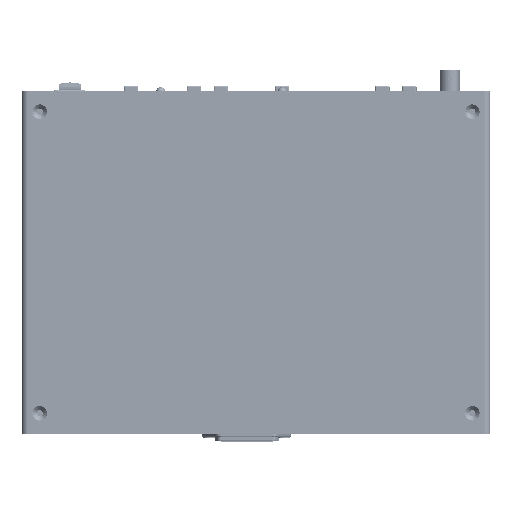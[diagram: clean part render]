
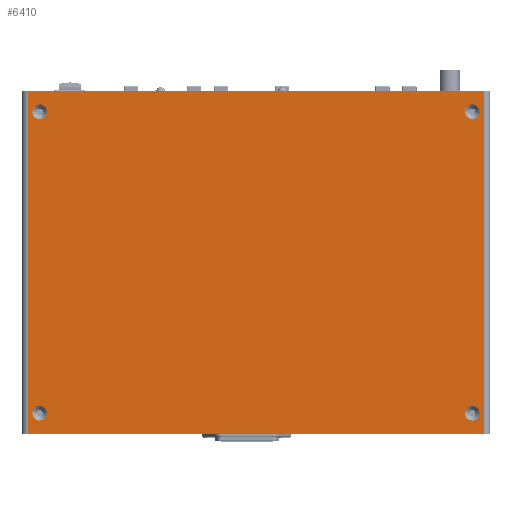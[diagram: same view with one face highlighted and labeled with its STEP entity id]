
A CAD part, front view. The second image highlights one B-rep face of the part: STEP entity #6410.
In plain terms, the highlighted planar face has unit normal (0, -1, 0).
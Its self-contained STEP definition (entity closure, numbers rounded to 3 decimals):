
#6410 = ADVANCED_FACE ( 'NONE', ( #1142898, #49089, #637951, #443942, #838616 ), #851406, .F. ) ;
#28886 = DIRECTION ( 'NONE',  ( 1., 0., 0. ) ) ;
#29588 = CARTESIAN_POINT ( 'NONE',  ( 109.5, 0., -82.5 ) ) ;
#38785 = ORIENTED_EDGE ( 'NONE', *, *, #711230, .T. ) ;
#49089 = FACE_BOUND ( 'NONE', #766691, .T. ) ;
#55401 = CARTESIAN_POINT ( 'NONE',  ( 0., 0., 0. ) ) ;
#59601 = DIRECTION ( 'NONE',  ( 1., 0., 0. ) ) ;
#75848 = DIRECTION ( 'NONE',  ( 1., 0., 0. ) ) ;
#78080 = ORIENTED_EDGE ( 'NONE', *, *, #612166, .T. ) ;
#78807 = VERTEX_POINT ( 'NONE', #600446 ) ;
#82308 = DIRECTION ( 'NONE',  ( 0., 1., 0. ) ) ;
#90701 = DIRECTION ( 'NONE',  ( 0., 0., 1. ) ) ;
#106627 = DIRECTION ( 'NONE',  ( 1., 0., 0. ) ) ;
#110735 = CIRCLE ( 'NONE', #1081695, 3.5 ) ;
#112844 = CARTESIAN_POINT ( 'NONE',  ( -109.5, 0., -82.5 ) ) ;
#114926 = DIRECTION ( 'NONE',  ( 1., 0., 0. ) ) ;
#141170 = VERTEX_POINT ( 'NONE', #504557 ) ;
#153185 = CIRCLE ( 'NONE', #255854, 3.5 ) ;
#154216 = CIRCLE ( 'NONE', #1228820, 3.5 ) ;
#165607 = CARTESIAN_POINT ( 'NONE',  ( 107.5, 0., 72.5 ) ) ;
#179448 = CARTESIAN_POINT ( 'NONE',  ( 104., 0., 72.5 ) ) ;
#230816 = EDGE_LOOP ( 'NONE', ( #920255, #778812 ) ) ;
#255854 = AXIS2_PLACEMENT_3D ( 'NONE', #998836, #908008, #416100 ) ;
#267906 = DIRECTION ( 'NONE',  ( 0., 0., 1. ) ) ;
#271138 = CARTESIAN_POINT ( 'NONE',  ( -109.5, 0., 82.5 ) ) ;
#272216 = EDGE_CURVE ( 'NONE', #478973, #553798, #699040, .T. ) ;
#275790 = AXIS2_PLACEMENT_3D ( 'NONE', #703480, #1001666, #114926 ) ;
#285049 = VECTOR ( 'NONE', #90701, 1000. ) ;
#303980 = CARTESIAN_POINT ( 'NONE',  ( 104., 0., -72.5 ) ) ;
#346222 = CIRCLE ( 'NONE', #862384, 3.5 ) ;
#368683 = AXIS2_PLACEMENT_3D ( 'NONE', #1005153, #901500, #706915 ) ;
#380245 = EDGE_CURVE ( 'NONE', #1132961, #141170, #110735, .T. ) ;
#397699 = CIRCLE ( 'NONE', #645971, 3.5 ) ;
#408719 = DIRECTION ( 'NONE',  ( 0., 1., 0. ) ) ;
#416100 = DIRECTION ( 'NONE',  ( 1., 0., 0. ) ) ;
#423128 = VERTEX_POINT ( 'NONE', #165607 ) ;
#423315 = EDGE_LOOP ( 'NONE', ( #951561, #854450, #801075, #435650 ) ) ;
#435650 = ORIENTED_EDGE ( 'NONE', *, *, #542057, .F. ) ;
#443942 = FACE_BOUND ( 'NONE', #1247805, .T. ) ;
#478973 = VERTEX_POINT ( 'NONE', #1028399 ) ;
#499936 = EDGE_CURVE ( 'NONE', #736394, #78807, #1154514, .T. ) ;
#501042 = CIRCLE ( 'NONE', #706712, 3.5 ) ;
#504557 = CARTESIAN_POINT ( 'NONE',  ( 100.5, 0., -72.5 ) ) ;
#504721 = EDGE_CURVE ( 'NONE', #78807, #918988, #769029, .T. ) ;
#520661 = VECTOR ( 'NONE', #758847, 1000. ) ;
#542057 = EDGE_CURVE ( 'NONE', #595229, #736394, #1147544, .T. ) ;
#549535 = DIRECTION ( 'NONE',  ( 1., 0., 0. ) ) ;
#553798 = VERTEX_POINT ( 'NONE', #617924 ) ;
#595167 = LINE ( 'NONE', #990157, #285049 ) ;
#595229 = VERTEX_POINT ( 'NONE', #29588 ) ;
#600446 = CARTESIAN_POINT ( 'NONE',  ( -109.5, 0., 82.5 ) ) ;
#612166 = EDGE_CURVE ( 'NONE', #141170, #1132961, #1102678, .T. ) ;
#617924 = CARTESIAN_POINT ( 'NONE',  ( -107.5, 0., -72.5 ) ) ;
#637951 = FACE_BOUND ( 'NONE', #230816, .T. ) ;
#645971 = AXIS2_PLACEMENT_3D ( 'NONE', #816139, #408719, #1211129 ) ;
#656905 = EDGE_LOOP ( 'NONE', ( #855251, #1000829 ) ) ;
#666898 = EDGE_CURVE ( 'NONE', #857441, #946082, #346222, .T. ) ;
#698322 = DIRECTION ( 'NONE',  ( 0., 1., 0. ) ) ;
#699040 = CIRCLE ( 'NONE', #368683, 3.5 ) ;
#703480 = CARTESIAN_POINT ( 'NONE',  ( 104., 0., -72.5 ) ) ;
#706712 = AXIS2_PLACEMENT_3D ( 'NONE', #179448, #82308, #75848 ) ;
#706915 = DIRECTION ( 'NONE',  ( 1., 0., 0. ) ) ;
#711230 = EDGE_CURVE ( 'NONE', #946082, #857441, #153185, .T. ) ;
#736394 = VERTEX_POINT ( 'NONE', #112844 ) ;
#755259 = CARTESIAN_POINT ( 'NONE',  ( 100.5, 0., 72.5 ) ) ;
#758847 = DIRECTION ( 'NONE',  ( -1., 0., 0. ) ) ;
#766691 = EDGE_LOOP ( 'NONE', ( #1277701, #38785 ) ) ;
#769029 = LINE ( 'NONE', #271138, #1198116 ) ;
#770723 = VERTEX_POINT ( 'NONE', #755259 ) ;
#778812 = ORIENTED_EDGE ( 'NONE', *, *, #1203485, .T. ) ;
#801075 = ORIENTED_EDGE ( 'NONE', *, *, #499936, .F. ) ;
#812028 = DIRECTION ( 'NONE',  ( 0., 1., 0. ) ) ;
#816139 = CARTESIAN_POINT ( 'NONE',  ( 104., 0., 72.5 ) ) ;
#838616 = FACE_BOUND ( 'NONE', #656905, .T. ) ;
#845018 = DIRECTION ( 'NONE',  ( 0., 1., 0. ) ) ;
#845373 = CARTESIAN_POINT ( 'NONE',  ( -100.5, 0., 72.5 ) ) ;
#851406 = PLANE ( 'NONE',  #1101376 ) ;
#854450 = ORIENTED_EDGE ( 'NONE', *, *, #504721, .F. ) ;
#855251 = ORIENTED_EDGE ( 'NONE', *, *, #1139216, .T. ) ;
#857441 = VERTEX_POINT ( 'NONE', #845373 ) ;
#861753 = ORIENTED_EDGE ( 'NONE', *, *, #380245, .T. ) ;
#862384 = AXIS2_PLACEMENT_3D ( 'NONE', #946535, #1250394, #59601 ) ;
#862997 = CARTESIAN_POINT ( 'NONE',  ( -109.5, 0., -82.5 ) ) ;
#901500 = DIRECTION ( 'NONE',  ( 0., 1., 0. ) ) ;
#908008 = DIRECTION ( 'NONE',  ( 0., 1., 0. ) ) ;
#918988 = VERTEX_POINT ( 'NONE', #953628 ) ;
#920255 = ORIENTED_EDGE ( 'NONE', *, *, #272216, .T. ) ;
#946082 = VERTEX_POINT ( 'NONE', #994100 ) ;
#946535 = CARTESIAN_POINT ( 'NONE',  ( -104., 0., 72.5 ) ) ;
#951561 = ORIENTED_EDGE ( 'NONE', *, *, #1024210, .T. ) ;
#953405 = CARTESIAN_POINT ( 'NONE',  ( 109.5, 0., -82.5 ) ) ;
#953628 = CARTESIAN_POINT ( 'NONE',  ( 109.5, 0., 82.5 ) ) ;
#982172 = VECTOR ( 'NONE', #267906, 1000. ) ;
#990157 = CARTESIAN_POINT ( 'NONE',  ( 109.5, 0., -82.5 ) ) ;
#994100 = CARTESIAN_POINT ( 'NONE',  ( -107.5, 0., 72.5 ) ) ;
#998836 = CARTESIAN_POINT ( 'NONE',  ( -104., 0., 72.5 ) ) ;
#1000829 = ORIENTED_EDGE ( 'NONE', *, *, #1036942, .T. ) ;
#1001666 = DIRECTION ( 'NONE',  ( 0., 1., 0. ) ) ;
#1003707 = CARTESIAN_POINT ( 'NONE',  ( 107.5, 0., -72.5 ) ) ;
#1005153 = CARTESIAN_POINT ( 'NONE',  ( -104., 0., -72.5 ) ) ;
#1024210 = EDGE_CURVE ( 'NONE', #595229, #918988, #595167, .T. ) ;
#1028399 = CARTESIAN_POINT ( 'NONE',  ( -100.5, 0., -72.5 ) ) ;
#1036942 = EDGE_CURVE ( 'NONE', #770723, #423128, #501042, .T. ) ;
#1081695 = AXIS2_PLACEMENT_3D ( 'NONE', #303980, #698322, #1197095 ) ;
#1101376 = AXIS2_PLACEMENT_3D ( 'NONE', #55401, #845018, #106627 ) ;
#1102678 = CIRCLE ( 'NONE', #275790, 3.5 ) ;
#1122784 = CARTESIAN_POINT ( 'NONE',  ( -104., 0., -72.5 ) ) ;
#1132961 = VERTEX_POINT ( 'NONE', #1003707 ) ;
#1139216 = EDGE_CURVE ( 'NONE', #423128, #770723, #397699, .T. ) ;
#1142898 = FACE_OUTER_BOUND ( 'NONE', #423315, .T. ) ;
#1147544 = LINE ( 'NONE', #953405, #520661 ) ;
#1154514 = LINE ( 'NONE', #862997, #982172 ) ;
#1197095 = DIRECTION ( 'NONE',  ( 1., 0., 0. ) ) ;
#1198116 = VECTOR ( 'NONE', #549535, 1000. ) ;
#1203485 = EDGE_CURVE ( 'NONE', #553798, #478973, #154216, .T. ) ;
#1211129 = DIRECTION ( 'NONE',  ( 1., 0., 0. ) ) ;
#1228820 = AXIS2_PLACEMENT_3D ( 'NONE', #1122784, #812028, #28886 ) ;
#1247805 = EDGE_LOOP ( 'NONE', ( #861753, #78080 ) ) ;
#1250394 = DIRECTION ( 'NONE',  ( 0., 1., 0. ) ) ;
#1277701 = ORIENTED_EDGE ( 'NONE', *, *, #666898, .T. ) ;
